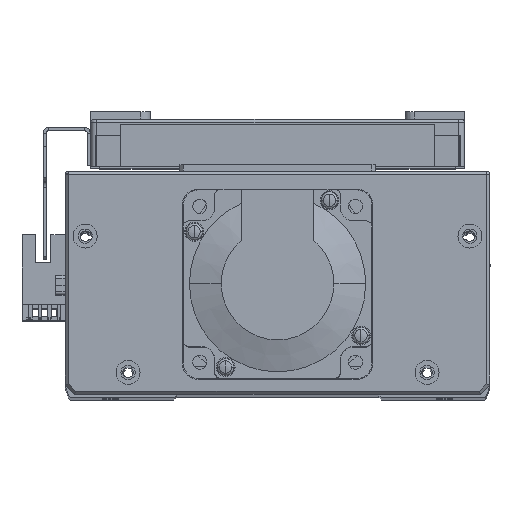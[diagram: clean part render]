
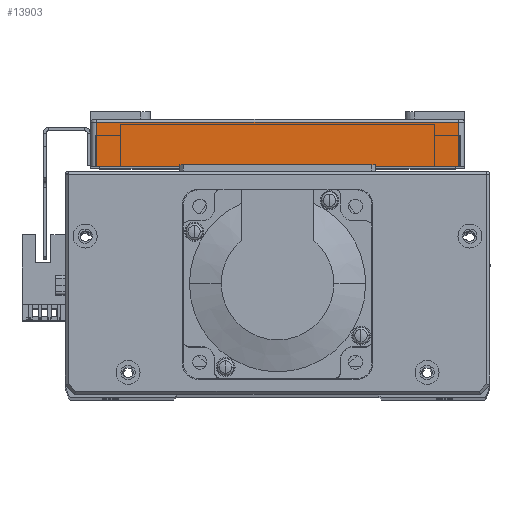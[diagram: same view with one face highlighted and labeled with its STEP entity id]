
A CAD part, top view. The second image highlights one B-rep face of the part: STEP entity #13903.
In plain terms, the highlighted planar face has unit normal (0, 0, 1) as drawn and (-1, 0, 0) by its records, which use the part's own axes.
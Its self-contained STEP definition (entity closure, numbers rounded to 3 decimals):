
#3573 = FACE_OUTER_BOUND ( 'NONE', #9793, .T. ) ;
#4446 = ORIENTED_EDGE ( 'NONE', *, *, #51057, .T. ) ;
#4454 = ORIENTED_EDGE ( 'NONE', *, *, #51141, .T. ) ;
#5615 = ORIENTED_EDGE ( 'NONE', *, *, #51105, .T. ) ;
#5621 = ORIENTED_EDGE ( 'NONE', *, *, #51193, .T. ) ;
#8552 = CARTESIAN_POINT ( 'NONE',  ( -95., 0., -57.5 ) ) ;
#9793 = EDGE_LOOP ( 'NONE', ( #4454, #5621, #5615, #4446 ) ) ;
#10965 = CARTESIAN_POINT ( 'NONE',  ( -95., 0., 57.5 ) ) ;
#13903 = ADVANCED_FACE ( 'NONE', ( #3573 ), #37353, .F. ) ;
#16512 = VERTEX_POINT ( 'NONE', #8552 ) ;
#17777 = VERTEX_POINT ( 'NONE', #10965 ) ;
#19872 = AXIS2_PLACEMENT_3D ( 'NONE', #37360, #37361, #37354 ) ;
#37353 = PLANE ( 'NONE',  #19872 ) ;
#37354 = DIRECTION ( 'NONE',  ( 0., 0., -1. ) ) ;
#37360 = CARTESIAN_POINT ( 'NONE',  ( -95., 15., -59.5 ) ) ;
#37361 = DIRECTION ( 'NONE',  ( 1., 0., 0. ) ) ;
#39090 = VECTOR ( 'NONE', #41656, 1000. ) ;
#39102 = LINE ( 'NONE', #41684, #39090 ) ;
#39162 = VECTOR ( 'NONE', #41760, 1000. ) ;
#39170 = LINE ( 'NONE', #41726, #39162 ) ;
#39230 = VECTOR ( 'NONE', #42034, 1000. ) ;
#39247 = LINE ( 'NONE', #41999, #39230 ) ;
#39249 = LINE ( 'NONE', #41843, #39269 ) ;
#39269 = VECTOR ( 'NONE', #41883, 1000. ) ;
#41656 = DIRECTION ( 'NONE',  ( 0., 0., 1. ) ) ;
#41684 = CARTESIAN_POINT ( 'NONE',  ( -95., 0., -59.5 ) ) ;
#41726 = CARTESIAN_POINT ( 'NONE',  ( -95., 15., -57.5 ) ) ;
#41760 = DIRECTION ( 'NONE',  ( 0., -1., 0. ) ) ;
#41843 = CARTESIAN_POINT ( 'NONE',  ( -95., 15., 57.5 ) ) ;
#41883 = DIRECTION ( 'NONE',  ( 0., 1., 0. ) ) ;
#41999 = CARTESIAN_POINT ( 'NONE',  ( -95., 14., -57.5 ) ) ;
#42034 = DIRECTION ( 'NONE',  ( 0., 0., -1. ) ) ;
#44088 = CARTESIAN_POINT ( 'NONE',  ( -95., 14., 57.5 ) ) ;
#44134 = CARTESIAN_POINT ( 'NONE',  ( -95., 14., -57.5 ) ) ;
#51057 = EDGE_CURVE ( 'NONE', #16512, #17777, #39102, .T. ) ;
#51105 = EDGE_CURVE ( 'NONE', #53059, #16512, #39170, .T. ) ;
#51141 = EDGE_CURVE ( 'NONE', #17777, #53057, #39249, .T. ) ;
#51193 = EDGE_CURVE ( 'NONE', #53057, #53059, #39247, .T. ) ;
#53057 = VERTEX_POINT ( 'NONE', #44088 ) ;
#53059 = VERTEX_POINT ( 'NONE', #44134 ) ;
